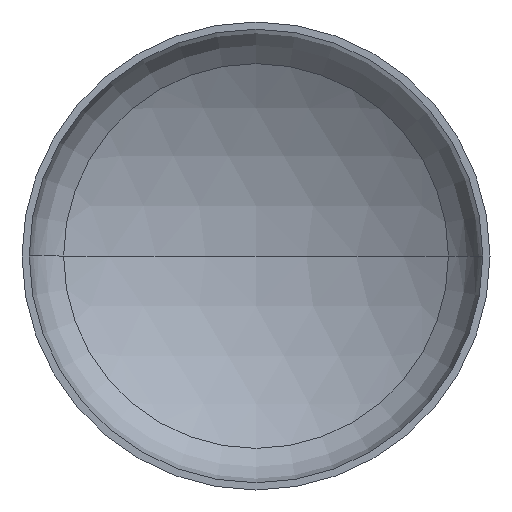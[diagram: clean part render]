
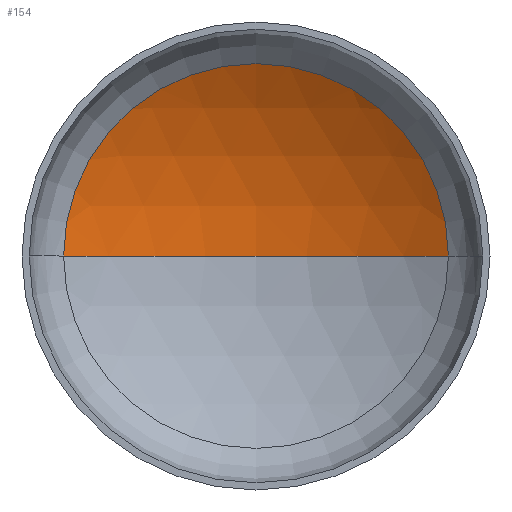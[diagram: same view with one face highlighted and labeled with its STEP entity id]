
A CAD part, front view. The second image highlights one B-rep face of the part: STEP entity #154.
In plain terms, the highlighted spherical face has radius 254 mm.
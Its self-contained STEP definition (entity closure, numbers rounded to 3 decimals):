
#1 = CARTESIAN_POINT ( 'NONE',  ( 0., -153.717, 0. ) ) ;
#5 = VERTEX_POINT ( 'NONE', #261 ) ;
#28 = AXIS2_PLACEMENT_3D ( 'NONE', #1, #387, #244 ) ;
#36 = AXIS2_PLACEMENT_3D ( 'NONE', #208, #205, #207 ) ;
#37 = AXIS2_PLACEMENT_3D ( 'NONE', #311, #308, #290 ) ;
#43 = ORIENTED_EDGE ( 'NONE', *, *, #86, .T. ) ;
#49 = ORIENTED_EDGE ( 'NONE', *, *, #357, .F. ) ;
#86 = EDGE_CURVE ( 'NONE', #305, #5, #348, .T. ) ;
#91 = EDGE_CURVE ( 'NONE', #96, #305, #279, .T. ) ;
#96 = VERTEX_POINT ( 'NONE', #219 ) ;
#98 = ORIENTED_EDGE ( 'NONE', *, *, #91, .T. ) ;
#121 = CARTESIAN_POINT ( 'NONE',  ( 0., -153.717, 0. ) ) ;
#126 = EDGE_LOOP ( 'NONE', ( #49, #98, #43 ) ) ;
#148 = DIRECTION ( 'NONE',  ( 0., 0., 1. ) ) ;
#153 = DIRECTION ( 'NONE',  ( 1., 0., 0. ) ) ;
#154 = ADVANCED_FACE ( 'NONE', ( #204 ), #391, .F. ) ;
#178 = CARTESIAN_POINT ( 'NONE',  ( 133.163, 62.578, 0. ) ) ;
#204 = FACE_OUTER_BOUND ( 'NONE', #126, .T. ) ;
#205 = DIRECTION ( 'NONE',  ( 0., 0., -1. ) ) ;
#207 = DIRECTION ( 'NONE',  ( -1., 0., 0. ) ) ;
#208 = CARTESIAN_POINT ( 'NONE',  ( 0., -153.717, 0. ) ) ;
#218 = AXIS2_PLACEMENT_3D ( 'NONE', #121, #148, #153 ) ;
#219 = CARTESIAN_POINT ( 'NONE',  ( 0., 100.283, 0. ) ) ;
#236 = CIRCLE ( 'NONE', #218, 254. ) ;
#244 = DIRECTION ( 'NONE',  ( -1., 0., 0. ) ) ;
#261 = CARTESIAN_POINT ( 'NONE',  ( -133.163, 62.578, 0. ) ) ;
#279 = CIRCLE ( 'NONE', #36, 254. ) ;
#290 = DIRECTION ( 'NONE',  ( 1., 0., 0. ) ) ;
#305 = VERTEX_POINT ( 'NONE', #178 ) ;
#308 = DIRECTION ( 'NONE',  ( 0., -1., 0. ) ) ;
#311 = CARTESIAN_POINT ( 'NONE',  ( 0., 62.578, 0. ) ) ;
#348 = CIRCLE ( 'NONE', #37, 133.163 ) ;
#357 = EDGE_CURVE ( 'NONE', #96, #5, #236, .T. ) ;
#387 = DIRECTION ( 'NONE',  ( 0., 0., -1. ) ) ;
#391 = SPHERICAL_SURFACE ( 'NONE', #28, 254. ) ;
